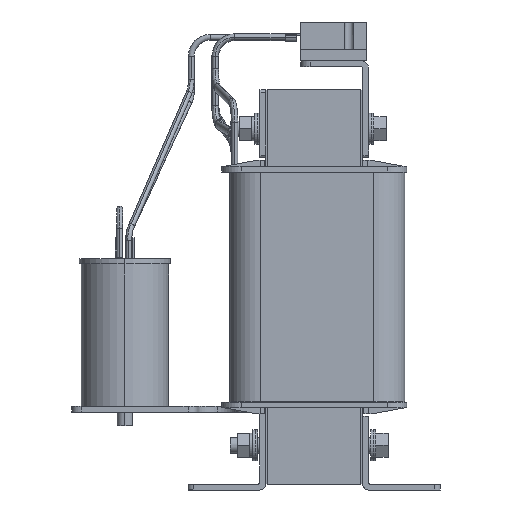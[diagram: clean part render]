
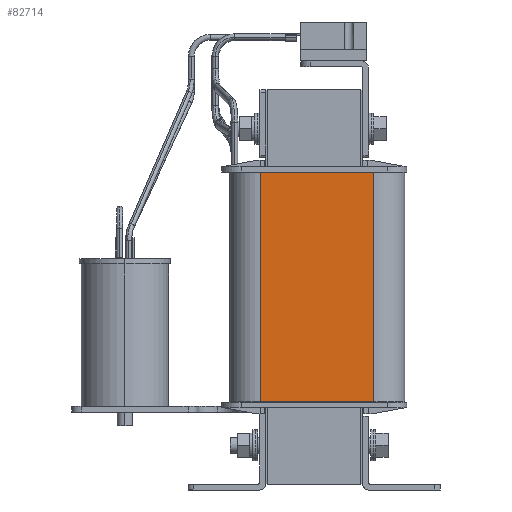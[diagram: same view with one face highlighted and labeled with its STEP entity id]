
A CAD part, left-side view. The second image highlights one B-rep face of the part: STEP entity #82714.
In plain terms, the highlighted planar face has unit normal (-1, 0, 0).
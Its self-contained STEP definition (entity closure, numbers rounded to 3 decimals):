
#1334 = CARTESIAN_POINT ( 'NONE',  ( -119.15, -2.65, 45.5 ) ) ;
#3520 = LINE ( 'NONE', #1334, #74240 ) ;
#9808 = EDGE_CURVE ( 'NONE', #13595, #18704, #3520, .T. ) ;
#10272 = CARTESIAN_POINT ( 'NONE',  ( -119.15, 55.65, 45.5 ) ) ;
#12428 = DIRECTION ( 'NONE',  ( 0., 1., 0. ) ) ;
#13595 = VERTEX_POINT ( 'NONE', #10272 ) ;
#13698 = LINE ( 'NONE', #54898, #37822 ) ;
#14733 = DIRECTION ( 'NONE',  ( 0., 0., -1. ) ) ;
#18410 = ORIENTED_EDGE ( 'NONE', *, *, #52089, .T. ) ;
#18704 = VERTEX_POINT ( 'NONE', #20280 ) ;
#20280 = CARTESIAN_POINT ( 'NONE',  ( -119.15, -2.65, 45.5 ) ) ;
#20708 = LINE ( 'NONE', #89383, #89970 ) ;
#22061 = ORIENTED_EDGE ( 'NONE', *, *, #9808, .T. ) ;
#22959 = EDGE_LOOP ( 'NONE', ( #65834, #18410, #22061, #69210 ) ) ;
#30720 = VERTEX_POINT ( 'NONE', #62408 ) ;
#32599 = LINE ( 'NONE', #81978, #48910 ) ;
#37822 = VECTOR ( 'NONE', #69589, 1000. ) ;
#38611 = DIRECTION ( 'NONE',  ( -1., 0., 0. ) ) ;
#48910 = VECTOR ( 'NONE', #12428, 1000. ) ;
#51404 = PLANE ( 'NONE',  #81887 ) ;
#52089 = EDGE_CURVE ( 'NONE', #82279, #13595, #20708, .T. ) ;
#54898 = CARTESIAN_POINT ( 'NONE',  ( -119.15, -2.65, 45.5 ) ) ;
#59467 = EDGE_CURVE ( 'NONE', #30720, #82279, #32599, .T. ) ;
#62408 = CARTESIAN_POINT ( 'NONE',  ( -119.15, -2.65, 163.5 ) ) ;
#65646 = CARTESIAN_POINT ( 'NONE',  ( -119.15, -2.65, 45.5 ) ) ;
#65834 = ORIENTED_EDGE ( 'NONE', *, *, #59467, .T. ) ;
#69210 = ORIENTED_EDGE ( 'NONE', *, *, #79696, .T. ) ;
#69589 = DIRECTION ( 'NONE',  ( 0., 0., 1. ) ) ;
#72266 = CARTESIAN_POINT ( 'NONE',  ( -119.15, 55.65, 163.5 ) ) ;
#74240 = VECTOR ( 'NONE', #80385, 1000. ) ;
#79309 = DIRECTION ( 'NONE',  ( 0., 0., 1. ) ) ;
#79696 = EDGE_CURVE ( 'NONE', #18704, #30720, #13698, .T. ) ;
#80385 = DIRECTION ( 'NONE',  ( 0., -1., 0. ) ) ;
#81887 = AXIS2_PLACEMENT_3D ( 'NONE', #65646, #38611, #79309 ) ;
#81978 = CARTESIAN_POINT ( 'NONE',  ( -119.15, -2.65, 163.5 ) ) ;
#82279 = VERTEX_POINT ( 'NONE', #72266 ) ;
#82714 = ADVANCED_FACE ( 'NONE', ( #86184 ), #51404, .T. ) ;
#86184 = FACE_OUTER_BOUND ( 'NONE', #22959, .T. ) ;
#89383 = CARTESIAN_POINT ( 'NONE',  ( -119.15, 55.65, 45.5 ) ) ;
#89970 = VECTOR ( 'NONE', #14733, 1000. ) ;
